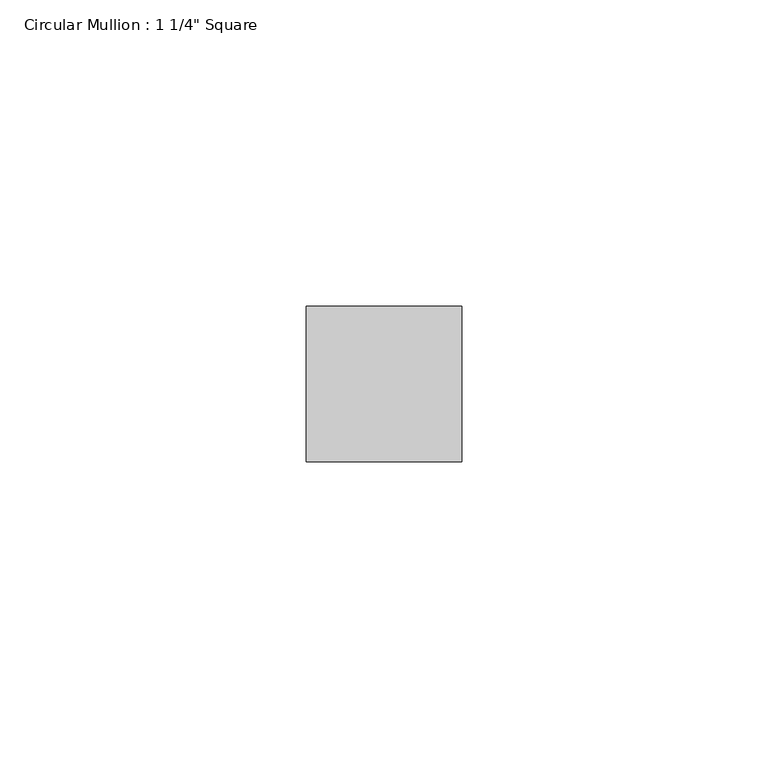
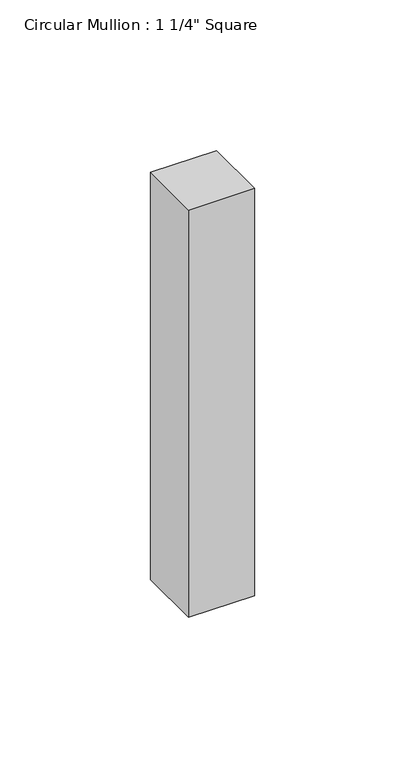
"""IFC4 building model written with IfcOpenShell, lengths in millimetres: member geometry."""

from ifc_helpers import new_model, si_unit, frame, origin, place, context, project, spatial, polyline, outline, extrude, source, transform, mapped, element, save


def member_f7ce43e5(model_context):
    return source(origin(), model_context, "Body", "SweptSolid", [
        extrude(outline(polyline([(0.0, 12.7), (0.0, -12.7), (-25.4, -12.7), (-25.4, 12.7), (0.0, 12.7)])), frame((0.0, 0.0, -165.0999997), z_axis=(0.0, 0.0, 1.0), x_axis=(1.0, 0.0, 0.0)), (0.0, 0.0, 1.0), 165.0999997),
    ])


if __name__ == "__main__":
    model = new_model("IFC4")
    model_context = context("Model", 3, world=origin())
    ifc_project = project(units=[si_unit("LENGTHUNIT", "METRE", prefix="MILLI")], contexts=[model_context])
    site = spatial("IfcSite", under=ifc_project)
    building = spatial("IfcBuilding", under=site)
    placement = place(None, origin())
    member_shape = member_f7ce43e5(model_context)
    element("IfcMember", 1, ObjectType="Circular Mullion : 1 1/4\" Square", at=placement, inside=building, context=model_context, shape_type="MappedRepresentation", body=[
        mapped(member_shape, transform((0.0, 0.0, 0.0), x_axis=(1.0, 0.0, 0.0), y_axis=(0.0, 1.0, 0.0), z_axis=(0.0, 0.0, 1.0))),
    ])
    save(model, "model.ifc")
